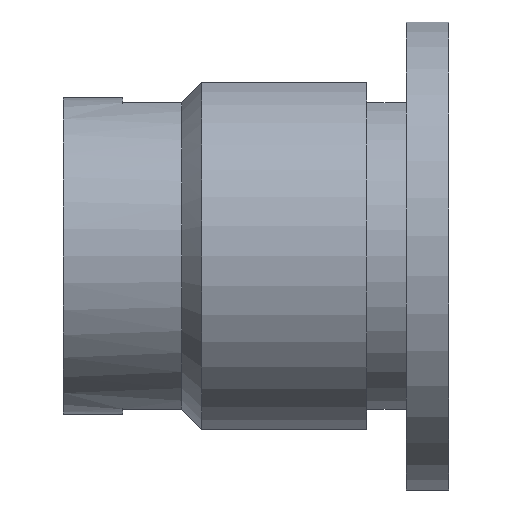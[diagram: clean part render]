
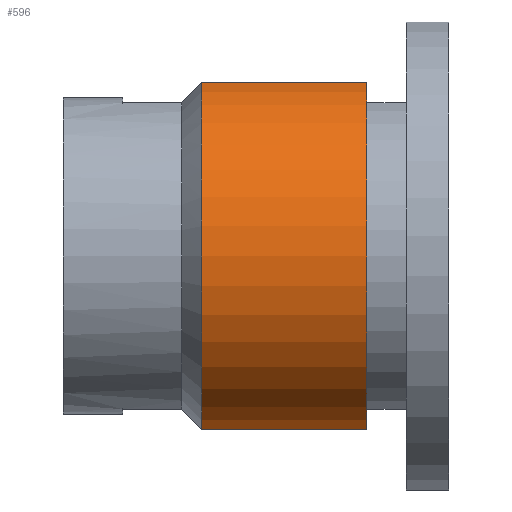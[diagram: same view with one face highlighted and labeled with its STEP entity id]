
A CAD part, front view. The second image highlights one B-rep face of the part: STEP entity #596.
In plain terms, the highlighted cylindrical face has radius 1.8 mm (diameter 3.6 mm), a partial arc.
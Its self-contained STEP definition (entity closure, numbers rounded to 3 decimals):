
#24 = ORIENTED_EDGE ( 'NONE', *, *, #1044, .F. ) ;
#34 = CARTESIAN_POINT ( 'NONE',  ( 11.788, -0.4, -1.755 ) ) ;
#74 = CARTESIAN_POINT ( 'NONE',  ( -2.5, -0.4, -1.755 ) ) ;
#113 = VECTOR ( 'NONE', #577, 1000. ) ;
#142 = CYLINDRICAL_SURFACE ( 'NONE', #891, 1.8 ) ;
#158 = DIRECTION ( 'NONE',  ( 0., 0., -1. ) ) ;
#218 = FACE_OUTER_BOUND ( 'NONE', #593, .T. ) ;
#254 = DIRECTION ( 'NONE',  ( 0., 0., -1. ) ) ;
#294 = EDGE_CURVE ( 'NONE', #997, #1022, #996, .T. ) ;
#300 = CARTESIAN_POINT ( 'NONE',  ( -2.5, -0.4, 1.755 ) ) ;
#335 = CARTESIAN_POINT ( 'NONE',  ( 11.788, -0.4, 1.755 ) ) ;
#403 = EDGE_CURVE ( 'NONE', #499, #997, #595, .T. ) ;
#413 = CARTESIAN_POINT ( 'NONE',  ( -0.83, -0.4, -1.755 ) ) ;
#459 = CARTESIAN_POINT ( 'NONE',  ( -0.83, 0., 0. ) ) ;
#481 = VECTOR ( 'NONE', #510, 1000. ) ;
#499 = VERTEX_POINT ( 'NONE', #1040 ) ;
#510 = DIRECTION ( 'NONE',  ( -1., 0., 0. ) ) ;
#511 = VERTEX_POINT ( 'NONE', #300 ) ;
#544 = ORIENTED_EDGE ( 'NONE', *, *, #965, .T. ) ;
#556 = CIRCLE ( 'NONE', #775, 1.8 ) ;
#563 = CARTESIAN_POINT ( 'NONE',  ( 11.788, 0., 0. ) ) ;
#577 = DIRECTION ( 'NONE',  ( 1., 0., 0. ) ) ;
#593 = EDGE_LOOP ( 'NONE', ( #947, #1010, #24, #544 ) ) ;
#595 = CIRCLE ( 'NONE', #779, 1.8 ) ;
#596 = ADVANCED_FACE ( 'NONE', ( #218 ), #142, .T. ) ;
#685 = DIRECTION ( 'NONE',  ( 0., 0., 1. ) ) ;
#775 = AXIS2_PLACEMENT_3D ( 'NONE', #954, #819, #254 ) ;
#779 = AXIS2_PLACEMENT_3D ( 'NONE', #459, #1020, #685 ) ;
#819 = DIRECTION ( 'NONE',  ( 1., 0., 0. ) ) ;
#881 = DIRECTION ( 'NONE',  ( 1., 0., 0. ) ) ;
#891 = AXIS2_PLACEMENT_3D ( 'NONE', #563, #881, #158 ) ;
#947 = ORIENTED_EDGE ( 'NONE', *, *, #294, .F. ) ;
#954 = CARTESIAN_POINT ( 'NONE',  ( -2.5, 0., 0. ) ) ;
#965 = EDGE_CURVE ( 'NONE', #511, #1022, #556, .T. ) ;
#996 = LINE ( 'NONE', #34, #481 ) ;
#997 = VERTEX_POINT ( 'NONE', #413 ) ;
#1010 = ORIENTED_EDGE ( 'NONE', *, *, #403, .F. ) ;
#1020 = DIRECTION ( 'NONE',  ( 1., 0., 0. ) ) ;
#1022 = VERTEX_POINT ( 'NONE', #74 ) ;
#1028 = LINE ( 'NONE', #335, #113 ) ;
#1040 = CARTESIAN_POINT ( 'NONE',  ( -0.83, -0.4, 1.755 ) ) ;
#1044 = EDGE_CURVE ( 'NONE', #511, #499, #1028, .T. ) ;
